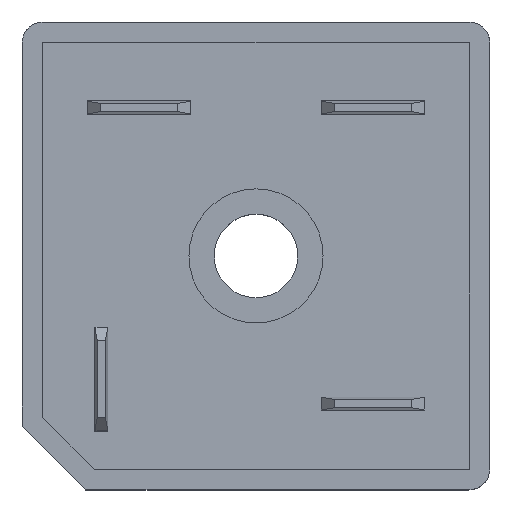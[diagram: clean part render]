
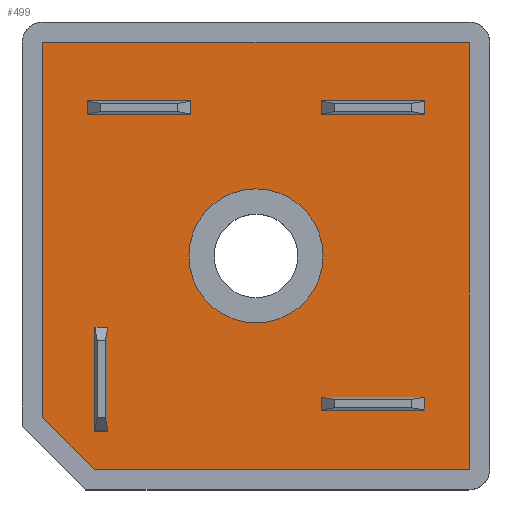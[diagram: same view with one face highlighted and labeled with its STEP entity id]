
A CAD part, top view. The second image highlights one B-rep face of the part: STEP entity #499.
In plain terms, the highlighted planar face has unit normal (0, 0, 1).
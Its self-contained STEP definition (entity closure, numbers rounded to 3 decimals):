
#238=PLANE('',#4175);
#323=FACE_BOUND('',#952,.T.);
#324=FACE_BOUND('',#953,.T.);
#499=ADVANCED_FACE('',(#323,#324),#238,.T.);
#952=EDGE_LOOP('',(#2759));
#953=EDGE_LOOP('',(#2760,#2761,#2762,#2763,#2764));
#1352=LINE('',#6169,#1791);
#1353=LINE('',#6172,#1792);
#1354=LINE('',#6174,#1793);
#1355=LINE('',#6176,#1794);
#1356=LINE('',#6178,#1795);
#1791=VECTOR('',#5085,1.);
#1792=VECTOR('',#5086,1.);
#1793=VECTOR('',#5087,1.);
#1794=VECTOR('',#5088,1.);
#1795=VECTOR('',#5089,1.);
#2759=ORIENTED_EDGE('',*,*,#3743,.T.);
#2760=ORIENTED_EDGE('',*,*,#3744,.F.);
#2761=ORIENTED_EDGE('',*,*,#3745,.T.);
#2762=ORIENTED_EDGE('',*,*,#3746,.F.);
#2763=ORIENTED_EDGE('',*,*,#3747,.F.);
#2764=ORIENTED_EDGE('',*,*,#3748,.F.);
#3240=VERTEX_POINT('',#6168);
#3241=VERTEX_POINT('',#6170);
#3242=VERTEX_POINT('',#6171);
#3243=VERTEX_POINT('',#6173);
#3244=VERTEX_POINT('',#6175);
#3245=VERTEX_POINT('',#6177);
#3743=EDGE_CURVE('',#3240,#3240,#3912,.T.);
#3744=EDGE_CURVE('',#3241,#3242,#1352,.T.);
#3745=EDGE_CURVE('',#3241,#3243,#1353,.T.);
#3746=EDGE_CURVE('',#3244,#3243,#1354,.T.);
#3747=EDGE_CURVE('',#3245,#3244,#1355,.T.);
#3748=EDGE_CURVE('',#3242,#3245,#1356,.T.);
#3912=CIRCLE('',#4174,4.1);
#4174=AXIS2_PLACEMENT_3D('',#6167,#5083,#5084);
#4175=AXIS2_PLACEMENT_3D('',#6179,#5090,#5091);
#5083=DIRECTION('',(0.,0.,-1.));
#5084=DIRECTION('',(0.,1.,0.));
#5085=DIRECTION('',(0.,1.,0.));
#5086=DIRECTION('',(0.707,-0.707,0.));
#5087=DIRECTION('',(-1.,0.,0.));
#5088=DIRECTION('',(0.,-1.,0.));
#5089=DIRECTION('',(1.,0.,0.));
#5090=DIRECTION('',(0.,0.,1.));
#5091=DIRECTION('',(0.,-1.,0.));
#6167=CARTESIAN_POINT('',(4.67,20.381,-12.285));
#6168=CARTESIAN_POINT('',(4.67,24.481,-12.285));
#6169=CARTESIAN_POINT('',(-8.38,20.381,-12.285));
#6170=CARTESIAN_POINT('',(-8.38,10.501,-12.285));
#6171=CARTESIAN_POINT('',(-8.38,33.431,-12.285));
#6172=CARTESIAN_POINT('',(-6.795,8.916,-12.285));
#6173=CARTESIAN_POINT('',(-5.21,7.331,-12.285));
#6174=CARTESIAN_POINT('',(4.67,7.331,-12.285));
#6175=CARTESIAN_POINT('',(17.72,7.331,-12.285));
#6176=CARTESIAN_POINT('',(17.72,20.381,-12.285));
#6177=CARTESIAN_POINT('',(17.72,33.431,-12.285));
#6178=CARTESIAN_POINT('',(4.67,33.431,-12.285));
#6179=CARTESIAN_POINT('',(4.67,20.381,-12.285));
